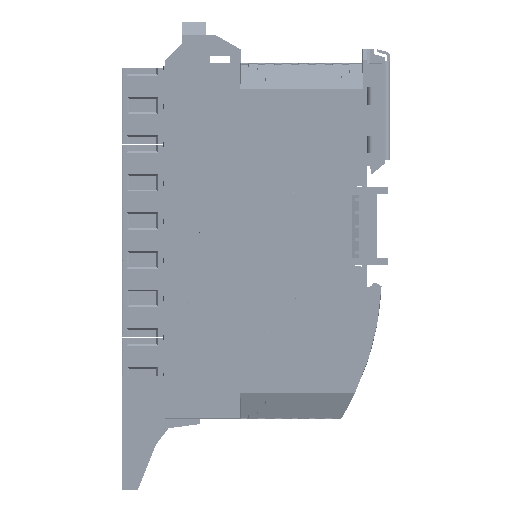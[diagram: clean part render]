
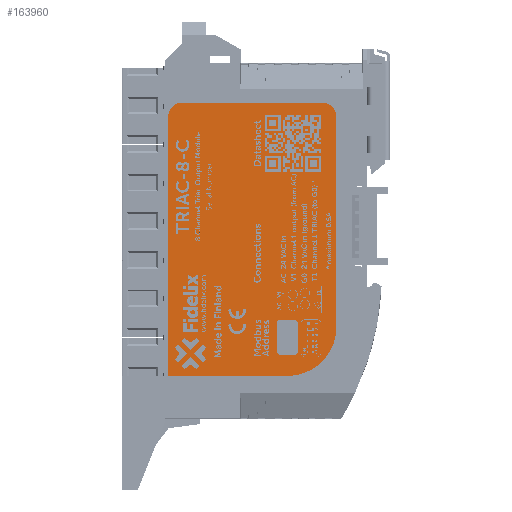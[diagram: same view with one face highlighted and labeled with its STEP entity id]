
A CAD part, left-side view. The second image highlights one B-rep face of the part: STEP entity #163960.
In plain terms, the highlighted planar face has unit normal (-1, 0, 0).
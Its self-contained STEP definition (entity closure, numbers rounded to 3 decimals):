
#2321=FACE_BOUND('',#20395,.T.);
#11547=FACE_OUTER_BOUND('',#20394,.T.);
#20394=EDGE_LOOP('',(#129464,#129465,#129466,#129467,#129468,#129469,#129470));
#20395=EDGE_LOOP('',(#129471,#129472,#129473,#129474,#129475,#129476,#129477,
#129478));
#35709=LINE('',#337440,#53707);
#35713=LINE('',#337452,#53711);
#35717=LINE('',#337464,#53715);
#35721=LINE('',#337476,#53719);
#35725=LINE('',#337488,#53723);
#35728=LINE('',#337494,#53726);
#35732=LINE('',#337506,#53730);
#35736=LINE('',#337518,#53734);
#53707=VECTOR('',#203544,1000.);
#53711=VECTOR('',#203556,1000.);
#53715=VECTOR('',#203568,1000.);
#53719=VECTOR('',#203580,1000.);
#53723=VECTOR('',#203592,1000.);
#53726=VECTOR('',#203597,1000.);
#53730=VECTOR('',#203609,1000.);
#53734=VECTOR('',#203621,1000.);
#61102=CIRCLE('',#174162,1.);
#61104=CIRCLE('',#174166,1.);
#61106=CIRCLE('',#174170,1.);
#61108=CIRCLE('',#174174,1.);
#61110=CIRCLE('',#174179,4.);
#61112=CIRCLE('',#174183,4.);
#61114=CIRCLE('',#174187,14.);
#71449=VERTEX_POINT('',#337437);
#71450=VERTEX_POINT('',#337439);
#71452=VERTEX_POINT('',#337445);
#71454=VERTEX_POINT('',#337451);
#71456=VERTEX_POINT('',#337457);
#71458=VERTEX_POINT('',#337463);
#71460=VERTEX_POINT('',#337469);
#71462=VERTEX_POINT('',#337475);
#71465=VERTEX_POINT('',#337485);
#71466=VERTEX_POINT('',#337487);
#71468=VERTEX_POINT('',#337493);
#71470=VERTEX_POINT('',#337499);
#71472=VERTEX_POINT('',#337505);
#71474=VERTEX_POINT('',#337511);
#71476=VERTEX_POINT('',#337517);
#91544=EDGE_CURVE('',#71450,#71449,#35709,.T.);
#91547=EDGE_CURVE('',#71452,#71450,#61102,.T.);
#91550=EDGE_CURVE('',#71454,#71452,#35713,.T.);
#91553=EDGE_CURVE('',#71456,#71454,#61104,.T.);
#91556=EDGE_CURVE('',#71458,#71456,#35717,.T.);
#91559=EDGE_CURVE('',#71460,#71458,#61106,.T.);
#91562=EDGE_CURVE('',#71462,#71460,#35721,.T.);
#91565=EDGE_CURVE('',#71449,#71462,#61108,.T.);
#91568=EDGE_CURVE('',#71466,#71465,#35725,.T.);
#91571=EDGE_CURVE('',#71468,#71466,#35728,.T.);
#91574=EDGE_CURVE('',#71470,#71468,#61110,.T.);
#91577=EDGE_CURVE('',#71472,#71470,#35732,.T.);
#91580=EDGE_CURVE('',#71474,#71472,#61112,.T.);
#91583=EDGE_CURVE('',#71476,#71474,#35736,.T.);
#91586=EDGE_CURVE('',#71465,#71476,#61114,.T.);
#129464=ORIENTED_EDGE('',*,*,#91586,.T.);
#129465=ORIENTED_EDGE('',*,*,#91583,.T.);
#129466=ORIENTED_EDGE('',*,*,#91580,.T.);
#129467=ORIENTED_EDGE('',*,*,#91577,.T.);
#129468=ORIENTED_EDGE('',*,*,#91574,.T.);
#129469=ORIENTED_EDGE('',*,*,#91571,.T.);
#129470=ORIENTED_EDGE('',*,*,#91568,.T.);
#129471=ORIENTED_EDGE('',*,*,#91565,.T.);
#129472=ORIENTED_EDGE('',*,*,#91562,.T.);
#129473=ORIENTED_EDGE('',*,*,#91559,.T.);
#129474=ORIENTED_EDGE('',*,*,#91556,.T.);
#129475=ORIENTED_EDGE('',*,*,#91553,.T.);
#129476=ORIENTED_EDGE('',*,*,#91550,.T.);
#129477=ORIENTED_EDGE('',*,*,#91547,.T.);
#129478=ORIENTED_EDGE('',*,*,#91544,.T.);
#147410=PLANE('',#174188);
#163960=ADVANCED_FACE('',(#11547,#2321),#147410,.T.);
#174162=AXIS2_PLACEMENT_3D('',#337446,#203550,#203551);
#174166=AXIS2_PLACEMENT_3D('',#337458,#203562,#203563);
#174170=AXIS2_PLACEMENT_3D('',#337470,#203574,#203575);
#174174=AXIS2_PLACEMENT_3D('',#337480,#203586,#203587);
#174179=AXIS2_PLACEMENT_3D('',#337500,#203603,#203604);
#174183=AXIS2_PLACEMENT_3D('',#337512,#203615,#203616);
#174187=AXIS2_PLACEMENT_3D('',#337522,#203627,#203628);
#174188=AXIS2_PLACEMENT_3D('',#337523,#203629,#203630);
#203544=DIRECTION('',(0.,0.,-1.));
#203550=DIRECTION('center_axis',(1.,0.,0.));
#203551=DIRECTION('ref_axis',(0.,-1.,0.));
#203556=DIRECTION('',(0.,-1.,0.));
#203562=DIRECTION('center_axis',(1.,0.,0.));
#203563=DIRECTION('ref_axis',(0.,0.,
1.));
#203568=DIRECTION('',(0.,0.,1.));
#203574=DIRECTION('center_axis',(1.,0.,0.));
#203575=DIRECTION('ref_axis',(0.,1.,0.));
#203580=DIRECTION('',(0.,1.,0.));
#203586=DIRECTION('center_axis',(1.,0.,0.));
#203587=DIRECTION('ref_axis',(0.,0.,
-1.));
#203592=DIRECTION('',(0.,-1.,0.));
#203597=DIRECTION('',(0.,0.,-1.));
#203603=DIRECTION('center_axis',(-1.,0.,0.));
#203604=DIRECTION('ref_axis',(0.,0.,
1.));
#203609=DIRECTION('',(0.,1.,0.));
#203615=DIRECTION('center_axis',(-1.,0.,0.));
#203616=DIRECTION('ref_axis',(0.,-1.,0.));
#203621=DIRECTION('',(0.,0.,1.));
#203627=DIRECTION('center_axis',(-1.,0.,0.));
#203628=DIRECTION('ref_axis',(0.,0.,
-1.));
#203629=DIRECTION('center_axis',(-1.,0.,0.));
#203630=DIRECTION('ref_axis',(0.,-1.,0.));
#337437=CARTESIAN_POINT('',(-9.55,19.7,-94.02));
#337439=CARTESIAN_POINT('',(-9.55,19.7,-86.02));
#337440=CARTESIAN_POINT('',(-9.55,19.7,-94.02));
#337445=CARTESIAN_POINT('',(-9.55,20.7,-85.02));
#337446=CARTESIAN_POINT('Origin',(-9.55,20.7,-86.02));
#337451=CARTESIAN_POINT('',(-9.55,24.7,-85.02));
#337452=CARTESIAN_POINT('',(-9.55,20.7,-85.02));
#337457=CARTESIAN_POINT('',(-9.55,25.7,-86.02));
#337458=CARTESIAN_POINT('Origin',(-9.55,24.7,-86.02));
#337463=CARTESIAN_POINT('',(-9.55,25.7,-94.02));
#337464=CARTESIAN_POINT('',(-9.55,25.7,-86.02));
#337469=CARTESIAN_POINT('',(-9.55,24.7,-95.02));
#337470=CARTESIAN_POINT('Origin',(-9.55,24.7,-94.02));
#337475=CARTESIAN_POINT('',(-9.55,20.7,-95.02));
#337476=CARTESIAN_POINT('',(-9.55,24.7,-95.02));
#337480=CARTESIAN_POINT('Origin',(-9.55,20.7,-94.02));
#337485=CARTESIAN_POINT('',(-9.55,22.7,-101.02));
#337487=CARTESIAN_POINT('',(-9.55,56.7,-101.02));
#337488=CARTESIAN_POINT('',(-9.55,56.7,-101.02));
#337493=CARTESIAN_POINT('',(-9.55,56.7,-27.02));
#337494=CARTESIAN_POINT('',(-9.55,56.7,-27.02));
#337499=CARTESIAN_POINT('',(-9.55,52.7,-23.02));
#337500=CARTESIAN_POINT('Origin',(-9.55,52.7,-27.02));
#337505=CARTESIAN_POINT('',(-9.55,12.7,-23.02));
#337506=CARTESIAN_POINT('',(-9.55,12.7,-23.02));
#337511=CARTESIAN_POINT('',(-9.55,8.7,-27.02));
#337512=CARTESIAN_POINT('Origin',(-9.55,12.7,-27.02));
#337517=CARTESIAN_POINT('',(-9.55,8.7,-87.02));
#337518=CARTESIAN_POINT('',(-9.55,8.7,-87.02));
#337522=CARTESIAN_POINT('Origin',(-9.55,22.7,-87.02));
#337523=CARTESIAN_POINT('Origin',(-9.55,32.7,-62.02));
